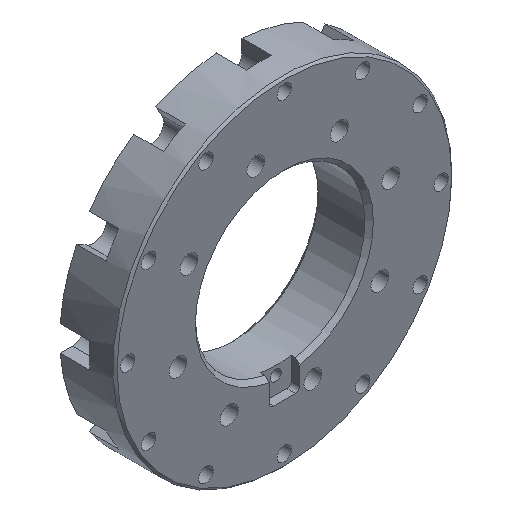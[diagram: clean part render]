
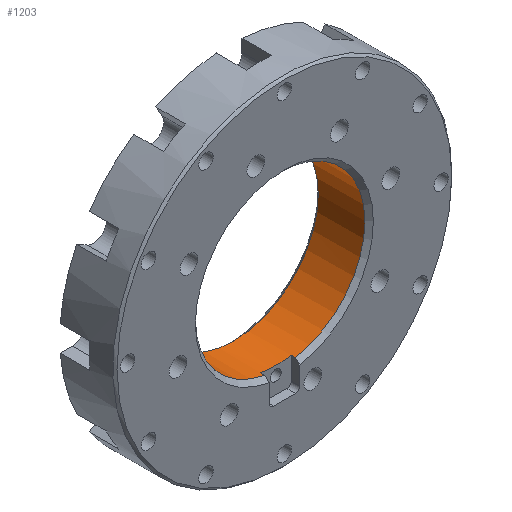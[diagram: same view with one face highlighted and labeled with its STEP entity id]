
A CAD part, isometric view. The second image highlights one B-rep face of the part: STEP entity #1203.
In plain terms, the highlighted cylindrical face has radius 20 mm (diameter 40 mm), a full revolution.
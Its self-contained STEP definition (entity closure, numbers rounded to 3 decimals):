
#131 = CIRCLE ( 'NONE', #1952, 20. ) ;
#132 = CARTESIAN_POINT ( 'NONE',  ( 0., -1., 20. ) ) ;
#152 = LINE ( 'NONE', #1476, #1829 ) ;
#164 = EDGE_CURVE ( 'NONE', #1259, #1317, #152, .T. ) ;
#172 = DIRECTION ( 'NONE',  ( 0., -1., 0. ) ) ;
#250 = DIRECTION ( 'NONE',  ( 0., -1., 0. ) ) ;
#286 = CARTESIAN_POINT ( 'NONE',  ( 0., 0., 0. ) ) ;
#292 = CARTESIAN_POINT ( 'NONE',  ( 0., -1., 0. ) ) ;
#317 = DIRECTION ( 'NONE',  ( 0., 0., 1. ) ) ;
#429 = DIRECTION ( 'NONE',  ( 0., 1., 0. ) ) ;
#482 = VERTEX_POINT ( 'NONE', #486 ) ;
#486 = CARTESIAN_POINT ( 'NONE',  ( 3.6, -12., -19.673 ) ) ;
#504 = FACE_OUTER_BOUND ( 'NONE', #2082, .T. ) ;
#730 = ORIENTED_EDGE ( 'NONE', *, *, #1559, .F. ) ;
#862 = CARTESIAN_POINT ( 'NONE',  ( 3.6, -11., -19.673 ) ) ;
#887 = EDGE_CURVE ( 'NONE', #2315, #2315, #2215, .T. ) ;
#982 = ORIENTED_EDGE ( 'NONE', *, *, #164, .F. ) ;
#1102 = LINE ( 'NONE', #1246, #2054 ) ;
#1126 = VERTEX_POINT ( 'NONE', #862 ) ;
#1203 = ADVANCED_FACE ( 'NONE', ( #504, #2794 ), #2534, .F. ) ;
#1246 = CARTESIAN_POINT ( 'NONE',  ( 3.6, 0., -19.673 ) ) ;
#1259 = VERTEX_POINT ( 'NONE', #1871 ) ;
#1317 = VERTEX_POINT ( 'NONE', #1477 ) ;
#1476 = CARTESIAN_POINT ( 'NONE',  ( -3.6, 0., -19.673 ) ) ;
#1477 = CARTESIAN_POINT ( 'NONE',  ( -3.6, -12., -19.673 ) ) ;
#1500 = EDGE_LOOP ( 'NONE', ( #1916 ) ) ;
#1516 = DIRECTION ( 'NONE',  ( 0., 0., -1. ) ) ;
#1559 = EDGE_CURVE ( 'NONE', #482, #1126, #1102, .T. ) ;
#1657 = DIRECTION ( 'NONE',  ( 0., 1., 0. ) ) ;
#1789 = EDGE_CURVE ( 'NONE', #1259, #1126, #2240, .T. ) ;
#1807 = AXIS2_PLACEMENT_3D ( 'NONE', #2454, #172, #1516 ) ;
#1829 = VECTOR ( 'NONE', #2853, 1000. ) ;
#1863 = DIRECTION ( 'NONE',  ( 0., 1., 0. ) ) ;
#1871 = CARTESIAN_POINT ( 'NONE',  ( -3.6, -11., -19.673 ) ) ;
#1893 = EDGE_CURVE ( 'NONE', #482, #1317, #131, .T. ) ;
#1916 = ORIENTED_EDGE ( 'NONE', *, *, #887, .T. ) ;
#1952 = AXIS2_PLACEMENT_3D ( 'NONE', #2705, #250, #2507 ) ;
#2054 = VECTOR ( 'NONE', #429, 1000. ) ;
#2082 = EDGE_LOOP ( 'NONE', ( #730, #2426, #982, #2796 ) ) ;
#2215 = CIRCLE ( 'NONE', #2675, 20. ) ;
#2240 = CIRCLE ( 'NONE', #1807, 20. ) ;
#2315 = VERTEX_POINT ( 'NONE', #132 ) ;
#2426 = ORIENTED_EDGE ( 'NONE', *, *, #1893, .T. ) ;
#2454 = CARTESIAN_POINT ( 'NONE',  ( 0., -11., 0. ) ) ;
#2507 = DIRECTION ( 'NONE',  ( 0., 0., -1. ) ) ;
#2534 = CYLINDRICAL_SURFACE ( 'NONE', #2541, 20. ) ;
#2541 = AXIS2_PLACEMENT_3D ( 'NONE', #286, #1657, #317 ) ;
#2675 = AXIS2_PLACEMENT_3D ( 'NONE', #292, #1863, #2698 ) ;
#2698 = DIRECTION ( 'NONE',  ( 0., 0., 1. ) ) ;
#2705 = CARTESIAN_POINT ( 'NONE',  ( 0., -12., 0. ) ) ;
#2794 = FACE_OUTER_BOUND ( 'NONE', #1500, .T. ) ;
#2796 = ORIENTED_EDGE ( 'NONE', *, *, #1789, .T. ) ;
#2853 = DIRECTION ( 'NONE',  ( 0., -1., 0. ) ) ;
